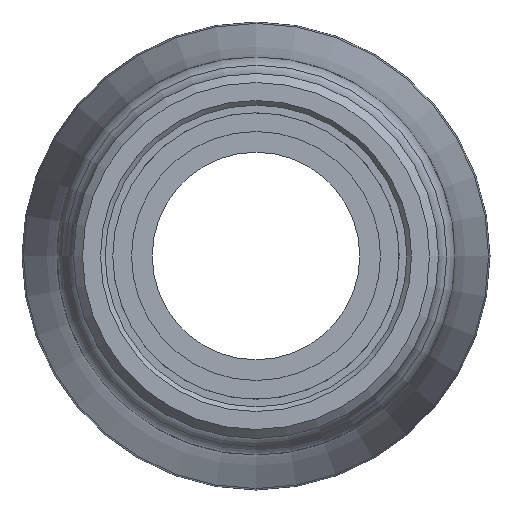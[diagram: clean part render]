
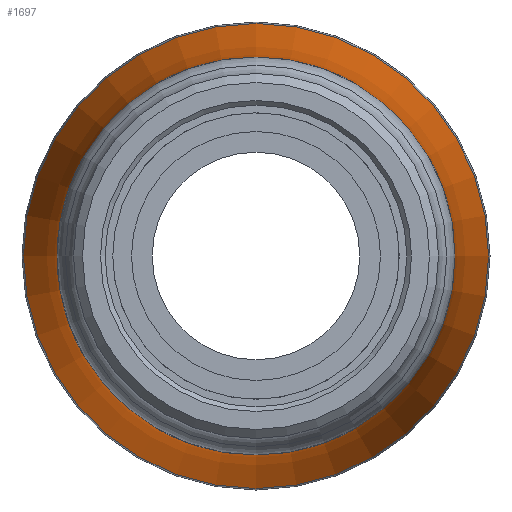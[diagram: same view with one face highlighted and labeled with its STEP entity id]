
A CAD part, left-side view. The second image highlights one B-rep face of the part: STEP entity #1697.
In plain terms, the highlighted toroidal (fillet/blend) face has major radius 131.676 mm and minor radius 111.701 mm.
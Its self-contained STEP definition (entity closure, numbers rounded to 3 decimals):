
#19=TOROIDAL_SURFACE('',#1902,131.676,111.701);
#273=FACE_BOUND('',#517,.T.);
#381=FACE_OUTER_BOUND('',#516,.T.);
#516=EDGE_LOOP('',(#1551));
#517=EDGE_LOOP('',(#1552));
#575=CIRCLE('',#1792,19.975);
#576=CIRCLE('',#1794,23.358);
#750=VERTEX_POINT('',#2869);
#751=VERTEX_POINT('',#2872);
#925=EDGE_CURVE('',#750,#750,#575,.T.);
#926=EDGE_CURVE('',#751,#751,#576,.T.);
#1551=ORIENTED_EDGE('',*,*,#926,.F.);
#1552=ORIENTED_EDGE('',*,*,#925,.T.);
#1697=ADVANCED_FACE('',(#381,#273),#19,.F.);
#1792=AXIS2_PLACEMENT_3D('',#2870,#2105,#2106);
#1794=AXIS2_PLACEMENT_3D('',#2873,#2109,#2110);
#1902=AXIS2_PLACEMENT_3D('',#3819,#2389,#2390);
#2105=DIRECTION('center_axis',(1.,0.,0.));
#2106=DIRECTION('ref_axis',(0.,0.,-1.));
#2109=DIRECTION('center_axis',(1.,0.,0.));
#2110=DIRECTION('ref_axis',(0.,-1.,0.));
#2389=DIRECTION('center_axis',(1.,0.,0.));
#2390=DIRECTION('ref_axis',(0.,0.,-1.));
#2869=CARTESIAN_POINT('',(41.,19.975,0.));
#2870=CARTESIAN_POINT('Origin',(41.,0.,0.));
#2872=CARTESIAN_POINT('',(68.281,23.358,0.));
#2873=CARTESIAN_POINT('Origin',(68.281,0.,0.));
#3819=CARTESIAN_POINT('Origin',(41.,0.,0.));
